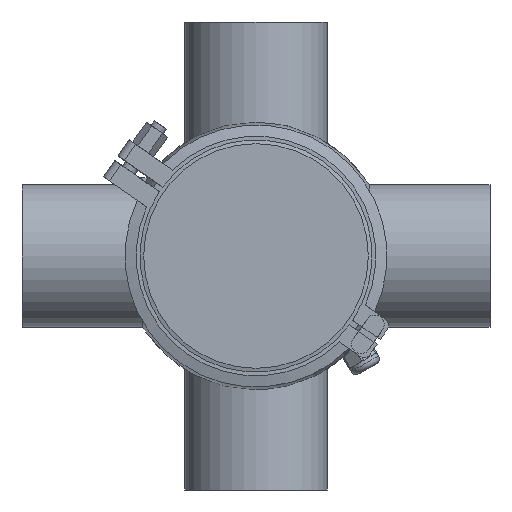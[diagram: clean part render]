
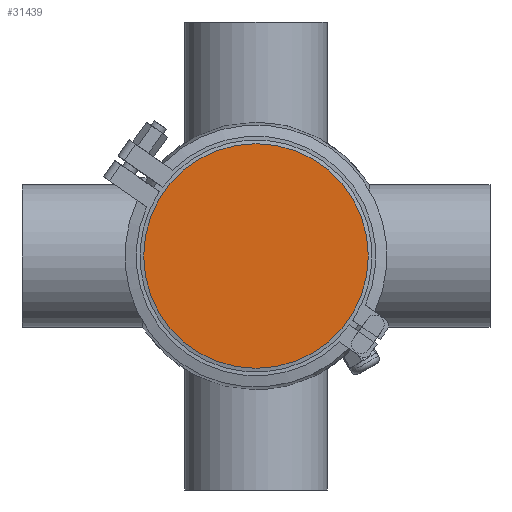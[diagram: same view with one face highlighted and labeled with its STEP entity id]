
A CAD part, front view. The second image highlights one B-rep face of the part: STEP entity #31439.
In plain terms, the highlighted planar face has unit normal (0, -1, 0).
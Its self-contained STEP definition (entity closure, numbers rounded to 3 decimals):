
#6245 = AXIS2_PLACEMENT_3D ( 'NONE', #22495, #23920, #50522 ) ;
#8756 = CARTESIAN_POINT ( 'NONE',  ( 0., 0., 0. ) ) ;
#13835 = CARTESIAN_POINT ( 'NONE',  ( 0., 0., 60. ) ) ;
#14424 = VERTEX_POINT ( 'NONE', #13835 ) ;
#17219 = FACE_OUTER_BOUND ( 'NONE', #22648, .T. ) ;
#18016 = DIRECTION ( 'NONE',  ( 0., 1., 0. ) ) ;
#22495 = CARTESIAN_POINT ( 'NONE',  ( -60., 0., 0. ) ) ;
#22648 = EDGE_LOOP ( 'NONE', ( #47655 ) ) ;
#23920 = DIRECTION ( 'NONE',  ( 0., -1., 0. ) ) ;
#28837 = PLANE ( 'NONE',  #6245 ) ;
#31439 = ADVANCED_FACE ( 'NONE', ( #17219 ), #28837, .T. ) ;
#47421 = AXIS2_PLACEMENT_3D ( 'NONE', #8756, #18016, #50975 ) ;
#47655 = ORIENTED_EDGE ( 'NONE', *, *, #49462, .F. ) ;
#48384 = CIRCLE ( 'NONE', #47421, 60. ) ;
#49462 = EDGE_CURVE ( 'NONE', #14424, #14424, #48384, .T. ) ;
#50522 = DIRECTION ( 'NONE',  ( 0., 0., -1. ) ) ;
#50975 = DIRECTION ( 'NONE',  ( 0., 0., 1. ) ) ;
